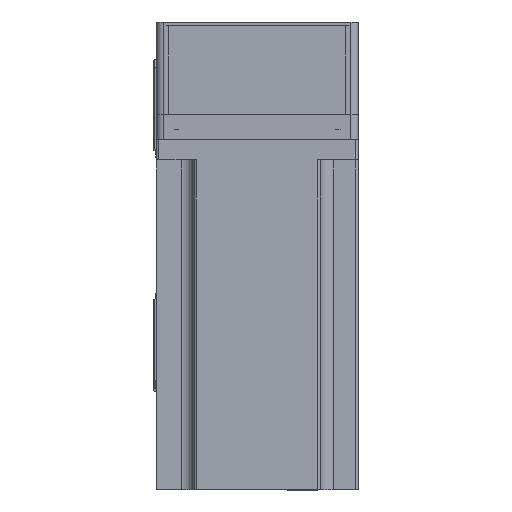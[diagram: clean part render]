
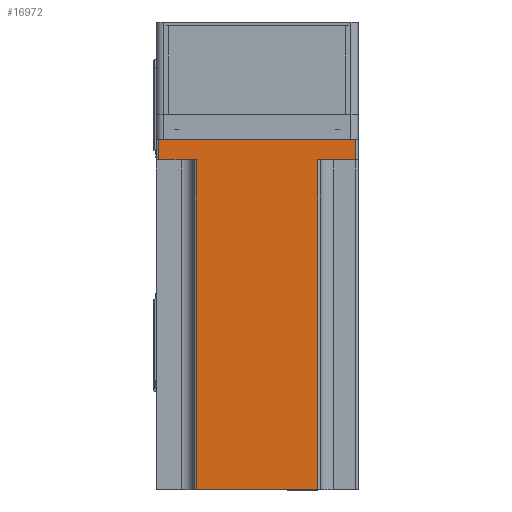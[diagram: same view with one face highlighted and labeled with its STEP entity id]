
A CAD part, top view. The second image highlights one B-rep face of the part: STEP entity #16972.
In plain terms, the highlighted planar face has unit normal (0, 0, 1) as drawn and (0, 1, 0) by its records, which use the part's own axes.
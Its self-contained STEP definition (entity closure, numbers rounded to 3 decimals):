
#222 = VECTOR ( 'NONE', #35343, 1000. ) ;
#926 = VECTOR ( 'NONE', #24090, 1000. ) ;
#2454 = VECTOR ( 'NONE', #5847, 1000. ) ;
#2533 = VERTEX_POINT ( 'NONE', #2667 ) ;
#2667 = CARTESIAN_POINT ( 'NONE',  ( -24., 40., 8. ) ) ;
#3714 = CARTESIAN_POINT ( 'NONE',  ( 39., 40., 8. ) ) ;
#3957 = CARTESIAN_POINT ( 'NONE',  ( -39., 40., 8. ) ) ;
#4653 = VERTEX_POINT ( 'NONE', #25878 ) ;
#4995 = ORIENTED_EDGE ( 'NONE', *, *, #26237, .T. ) ;
#5847 = DIRECTION ( 'NONE',  ( 0., 0., 1. ) ) ;
#6352 = CARTESIAN_POINT ( 'NONE',  ( -39., 40., 0. ) ) ;
#6593 = EDGE_CURVE ( 'NONE', #7356, #27971, #10358, .T. ) ;
#6627 = CARTESIAN_POINT ( 'NONE',  ( 24., 40., 8. ) ) ;
#6858 = ORIENTED_EDGE ( 'NONE', *, *, #7363, .F. ) ;
#6998 = CARTESIAN_POINT ( 'NONE',  ( 40., 40., 138.3 ) ) ;
#7356 = VERTEX_POINT ( 'NONE', #31798 ) ;
#7363 = EDGE_CURVE ( 'NONE', #38754, #27971, #11854, .T. ) ;
#7529 = DIRECTION ( 'NONE',  ( 0., 0., 1. ) ) ;
#8152 = ORIENTED_EDGE ( 'NONE', *, *, #6593, .T. ) ;
#8444 = VECTOR ( 'NONE', #39579, 1000. ) ;
#10358 = LINE ( 'NONE', #38170, #926 ) ;
#11854 = LINE ( 'NONE', #42465, #222 ) ;
#11877 = LINE ( 'NONE', #19918, #2454 ) ;
#12414 = LINE ( 'NONE', #28727, #32357 ) ;
#13604 = LINE ( 'NONE', #6998, #32445 ) ;
#13868 = ORIENTED_EDGE ( 'NONE', *, *, #43660, .T. ) ;
#15757 = CARTESIAN_POINT ( 'NONE',  ( 40., 40., 138.3 ) ) ;
#16972 = ADVANCED_FACE ( 'NONE', ( #24417 ), #22712, .F. ) ;
#17477 = LINE ( 'NONE', #25620, #45742 ) ;
#17859 = LINE ( 'NONE', #21950, #8444 ) ;
#19246 = EDGE_CURVE ( 'NONE', #2533, #4653, #11877, .T. ) ;
#19332 = DIRECTION ( 'NONE',  ( 1., 0., 0. ) ) ;
#19918 = CARTESIAN_POINT ( 'NONE',  ( -24., 40., 138.3 ) ) ;
#19982 = ORIENTED_EDGE ( 'NONE', *, *, #45629, .T. ) ;
#20198 = EDGE_LOOP ( 'NONE', ( #28823, #35824, #43999, #8152, #6858, #13868, #19982, #4995 ) ) ;
#21950 = CARTESIAN_POINT ( 'NONE',  ( -25., 40., 8. ) ) ;
#22712 = PLANE ( 'NONE',  #36364 ) ;
#24090 = DIRECTION ( 'NONE',  ( 0., 0., -1. ) ) ;
#24417 = FACE_OUTER_BOUND ( 'NONE', #20198, .T. ) ;
#24516 = VECTOR ( 'NONE', #36922, 1000. ) ;
#25620 = CARTESIAN_POINT ( 'NONE',  ( 39., 40., 138.3 ) ) ;
#25878 = CARTESIAN_POINT ( 'NONE',  ( -24., 40., 138.3 ) ) ;
#26237 = EDGE_CURVE ( 'NONE', #40879, #27483, #12414, .T. ) ;
#27483 = VERTEX_POINT ( 'NONE', #3957 ) ;
#27971 = VERTEX_POINT ( 'NONE', #6627 ) ;
#28182 = DIRECTION ( 'NONE',  ( -1., 0., 0. ) ) ;
#28727 = CARTESIAN_POINT ( 'NONE',  ( -39., 40., 138.3 ) ) ;
#28823 = ORIENTED_EDGE ( 'NONE', *, *, #31924, .T. ) ;
#29817 = CARTESIAN_POINT ( 'NONE',  ( 40., 40., 0. ) ) ;
#31798 = CARTESIAN_POINT ( 'NONE',  ( 24., 40., 138.3 ) ) ;
#31924 = EDGE_CURVE ( 'NONE', #27483, #2533, #17859, .T. ) ;
#32324 = CARTESIAN_POINT ( 'NONE',  ( 39., 40., 0. ) ) ;
#32357 = VECTOR ( 'NONE', #7529, 1000. ) ;
#32445 = VECTOR ( 'NONE', #28182, 1000. ) ;
#33913 = LINE ( 'NONE', #29817, #24516 ) ;
#34323 = VERTEX_POINT ( 'NONE', #32324 ) ;
#35343 = DIRECTION ( 'NONE',  ( -1., 0., 0. ) ) ;
#35824 = ORIENTED_EDGE ( 'NONE', *, *, #19246, .T. ) ;
#36364 = AXIS2_PLACEMENT_3D ( 'NONE', #15757, #40511, #19332 ) ;
#36922 = DIRECTION ( 'NONE',  ( -1., 0., 0. ) ) ;
#38170 = CARTESIAN_POINT ( 'NONE',  ( 24., 40., 138.3 ) ) ;
#38754 = VERTEX_POINT ( 'NONE', #3714 ) ;
#39579 = DIRECTION ( 'NONE',  ( 1., 0., 0. ) ) ;
#39845 = DIRECTION ( 'NONE',  ( 0., 0., -1. ) ) ;
#40511 = DIRECTION ( 'NONE',  ( 0., -1., 0. ) ) ;
#40879 = VERTEX_POINT ( 'NONE', #6352 ) ;
#42465 = CARTESIAN_POINT ( 'NONE',  ( 25., 40., 8. ) ) ;
#42895 = EDGE_CURVE ( 'NONE', #7356, #4653, #13604, .T. ) ;
#43660 = EDGE_CURVE ( 'NONE', #38754, #34323, #17477, .T. ) ;
#43999 = ORIENTED_EDGE ( 'NONE', *, *, #42895, .F. ) ;
#45629 = EDGE_CURVE ( 'NONE', #34323, #40879, #33913, .T. ) ;
#45742 = VECTOR ( 'NONE', #39845, 1000. ) ;
